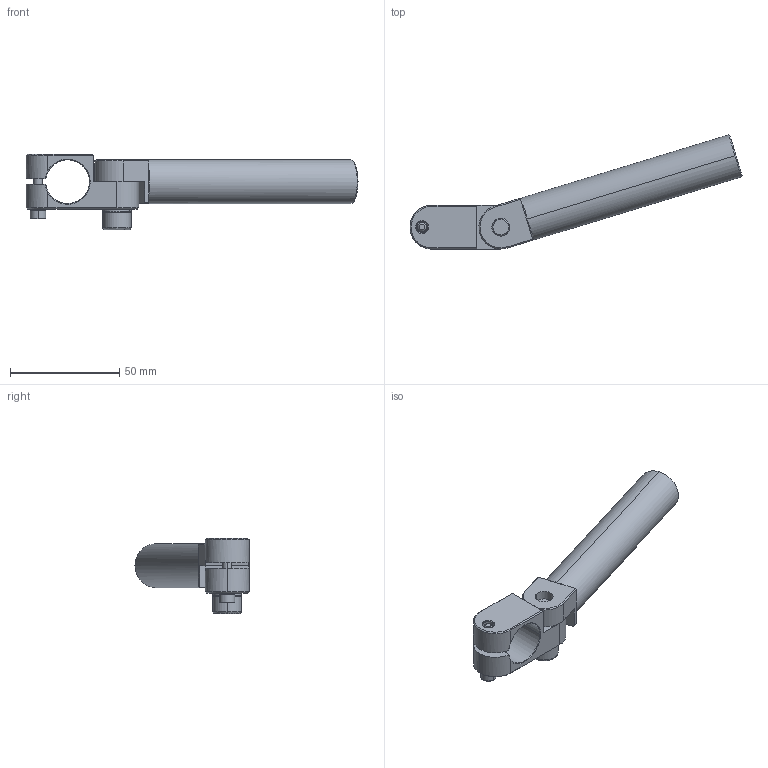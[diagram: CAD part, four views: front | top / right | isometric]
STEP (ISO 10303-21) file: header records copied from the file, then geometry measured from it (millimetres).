
FILE_DESCRIPTION (( 'STEP AP214' ), '1' );
FILE_NAME ('SEA-2020L100.STEP', '2019-11-11T02:56:09', ( '微软用户' ), ( '微软中国' ), 'SwSTEP 2.0', 'SolidWorks 2016', '' );
FILE_SCHEMA (( 'AUTOMOTIVE_DESIGN' ));
Length unit declared in the file: millimetre
Products named in the file (1): SEA-2020L100
Bounding box: 151.7 x 52.14 x 34.4 mm (x, y, z)
Volume: 34876.4 mm3; surface area: 19970.8 mm2
Topology: 6 solids, 6 shells, 563 faces, 1607 edges, 1042 vertices
Faces by surface type: plane 485, cylinder 35, cone 25, bspline 18
Entity records: 26915 total; most frequent: CARTESIAN_POINT 5665, ORIENTED_EDGE 3184, DIRECTION 3183, EDGE_CURVE 1592, AXIS2_PLACEMENT_3D 1077, VERTEX_POINT 1042, VECTOR 1029, LINE 1029
